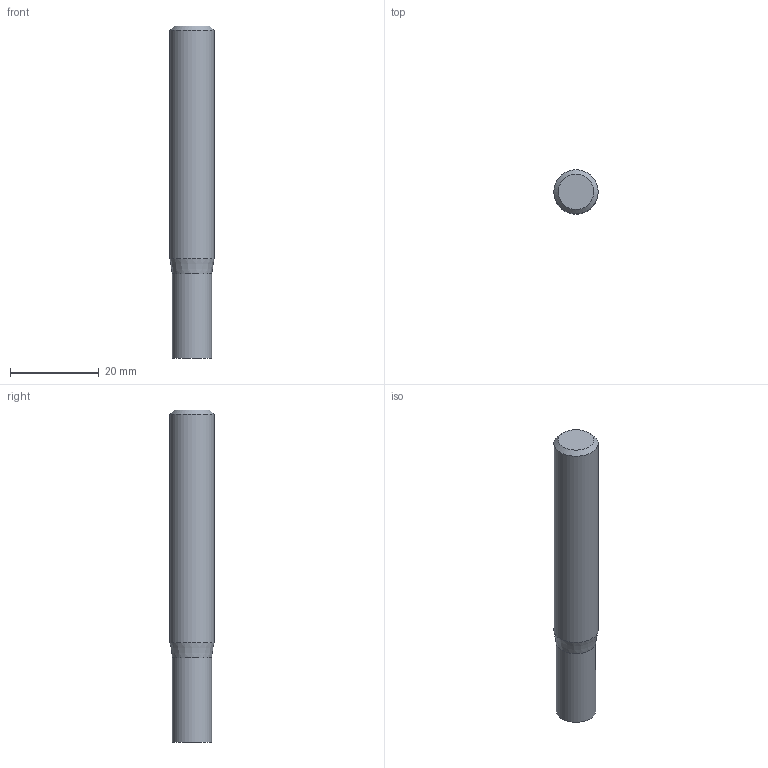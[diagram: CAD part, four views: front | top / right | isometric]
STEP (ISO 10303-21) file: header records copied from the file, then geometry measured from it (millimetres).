
FILE_DESCRIPTION((''),'2;1');
FILE_NAME('C:\Users\nsx150\AppData\Local\Temp\Mastercam 2021\98T1Q6BTT1\TEMP.step','2021-10-21T14:49:47',(''),(''),'STEP Write','Mastercam 2021 ... CNC Software, Inc.','');
FILE_SCHEMA(('AUTOMOTIVE_DESIGN'));
Length unit declared in the file: millimetre
Products named in the file (1): None
Bounding box: 10 x 10 x 75 mm (x, y, z)
Volume: 5536.7 mm3; surface area: 2531.3 mm2
Topology: 2 solids, 2 shells, 8 faces, 10 edges, 6 vertices
Faces by surface type: plane 4, cylinder 2, cone 2
Full cylindrical faces by diameter (mm): 8.9 x1, 10 x1
Entity records: 190 total; most frequent: DIRECTION 32, CARTESIAN_POINT 22, AXIS2_PLACEMENT_3D 16, ORIENTED_EDGE 12, EDGE_LOOP 12, STYLED_ITEM 11, ADVANCED_FACE 8, VERTEX_POINT 6
